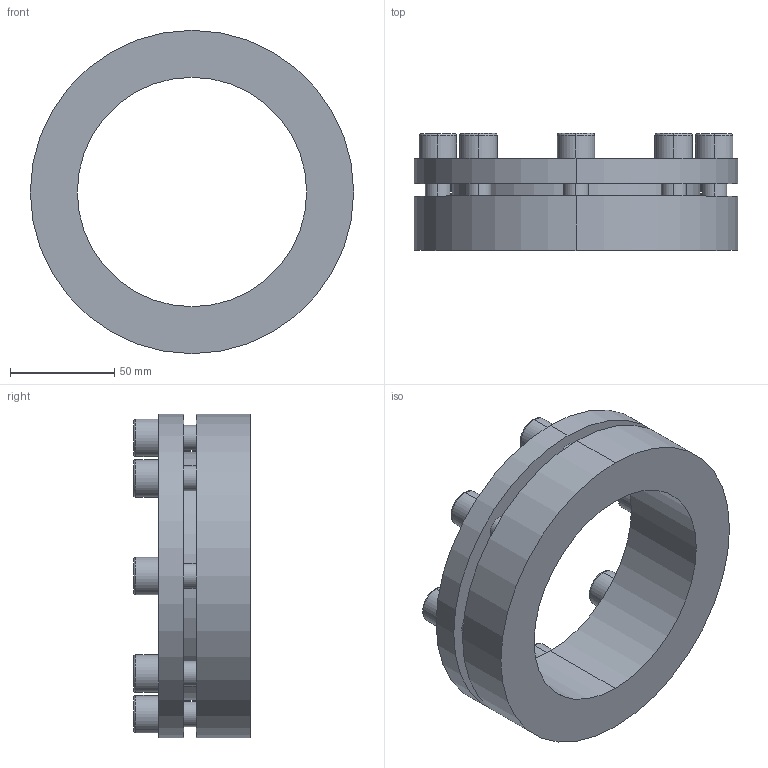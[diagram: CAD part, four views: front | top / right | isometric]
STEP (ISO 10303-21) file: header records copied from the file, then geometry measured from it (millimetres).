
FILE_DESCRIPTION (( 'STEP AP203' ), '1' );
FILE_NAME ('PL-H3 110-155.STEP', '2021-10-23T01:10:09', ( '' ), ( '' ), 'SwSTEP 2.0', 'SolidWorks 2018', '' );
FILE_SCHEMA (( 'CONFIG_CONTROL_DESIGN' ));
Length unit declared in the file: millimetre
Products named in the file (1): PL-H3 110-155
Bounding box: 155 x 56 x 155 mm (x, y, z)
Volume: 391221.5 mm3; surface area: 77072.2 mm2
Topology: 1 solids, 1 shells, 124 faces, 296 edges, 192 vertices
Faces by surface type: plane 68, cylinder 40, torus 16
Entity records: 3717 total; most frequent: DIRECTION 658, CARTESIAN_POINT 613, ORIENTED_EDGE 592, EDGE_CURVE 296, AXIS2_PLACEMENT_3D 237, VERTEX_POINT 192, LINE 184, VECTOR 184
